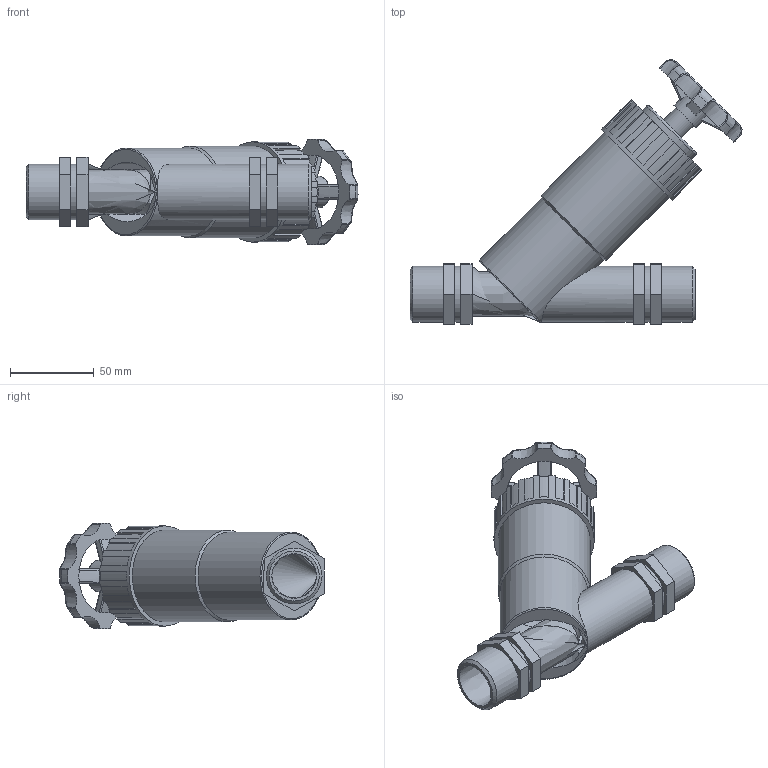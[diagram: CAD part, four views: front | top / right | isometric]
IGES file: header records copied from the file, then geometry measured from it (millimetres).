
Global section: file name: 03047110_030471100A_03049110.ipt; native system: Autodesk Inventor 2015; preprocessor: unknown; author: KIM; date: 20170619.121256; units: millimetre
Bounding box: 197.97 x 157.92 x 62.97 mm (x, y, z)
Volume: 312990.9 mm3; surface area: 64886.3 mm2
Topology: 2 solids, 3 shells, 222 faces, 595 edges, 386 vertices
Faces by surface type: plane 110, cylinder 57, bspline 26, revolution 22, cone 7
Full cylindrical faces by diameter (mm): 15.12 x1, 18.9 x1, 33.249 x6, 41.58 x1, 52.29 x1, 54.81 x1, 59.85 x1
